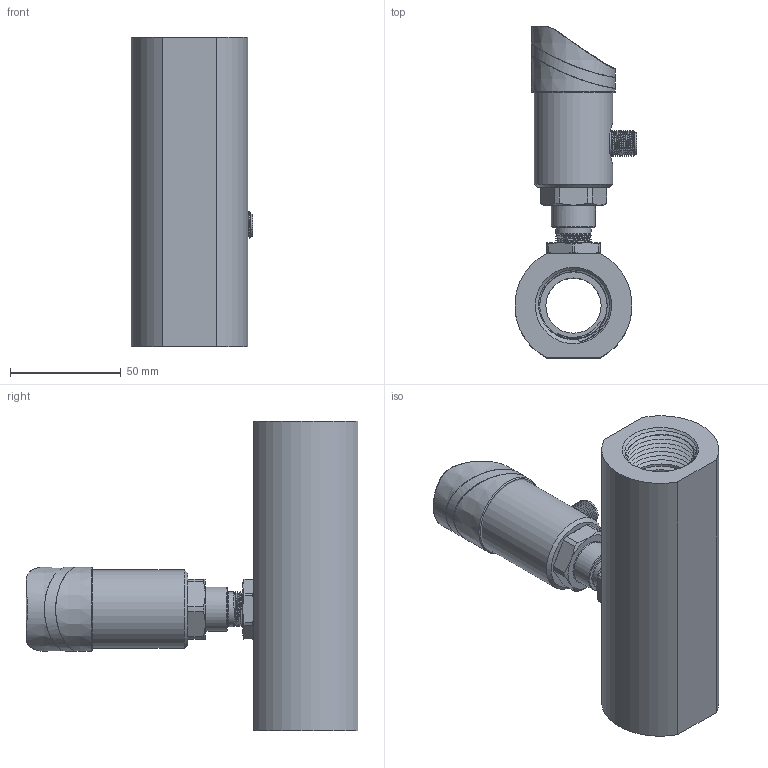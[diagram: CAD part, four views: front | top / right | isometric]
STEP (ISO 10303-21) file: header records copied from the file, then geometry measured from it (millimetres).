
FILE_DESCRIPTION( (''), '2;1');
FILE_NAME( 'QTKE_DN25_female-thread.step', '2024-10-15T10:16:28+08:00', (''), (''), '', '', '');
FILE_SCHEMA (('AUTOMOTIVE_DESIGN { 1 0 10303 214 3 1 1 1 }'));
Length unit declared in the file: millimetre
Products named in the file (1): QTKE DN25_female-thread
Bounding box: 55.11 x 150 x 140 mm (x, y, z)
Volume: 276325.2 mm3; surface area: 69117.5 mm2
Topology: 5 solids, 6 shells, 730 faces, 1891 edges, 1232 vertices
Faces by surface type: plane 268, extrusion 141, cylinder 130, bspline 76, cone 72, torus 32, sphere 11
Full cylindrical faces by diameter (mm): 1.689 x1, 2.7 x3, 12 x1, 15 x1, 15.9 x1, 16.5 x1, 20 x1, 23 x3, 25 x1, 26 x5, 30.5 x2, 35.5 x1, 37.001 x1
Entity records: 34008 total; most frequent: CARTESIAN_POINT 16057, ORIENTED_EDGE 3596, DIRECTION 2765, EDGE_CURVE 1798, VERTEX_POINT 1196, VECTOR 961, AXIS2_PLACEMENT_3D 902, EDGE_LOOP 848
